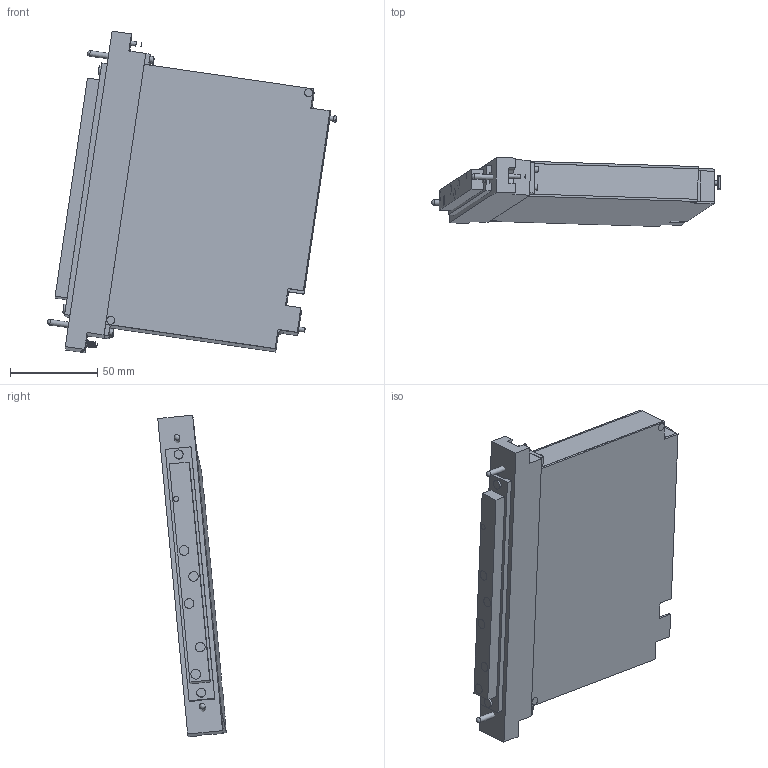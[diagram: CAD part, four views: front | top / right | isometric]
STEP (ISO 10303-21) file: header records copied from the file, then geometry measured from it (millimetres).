
FILE_DESCRIPTION((''),'2;1');
FILE_NAME('C:\old_Drawings\shrinkwrapped website .stp files\561039-STP.stp','2011-06-14T13:30:18',('GaryRobinson'),(''),'Autodesk Inventor 2011','Autodesk Inventor 2011','');
FILE_SCHEMA(('CONFIG_CONTROL_DESIGN'));
Length unit declared in the file: inch
Products named in the file (1): 561039-STP
Bounding box: 165.47 x 39.2 x 184.04 mm (x, y, z)
Surface area: 97933.1 mm2 (no closed solid volume)
Topology: 0 solids, 37 shells, 131 faces, 393 edges, 278 vertices
Faces by surface type: plane 93, cylinder 26, cone 9, sphere 2, bspline 1
Full cylindrical faces by diameter (mm): 2.184 x1, 2.5 x1, 2.54 x2, 2.731 x1, 2.946 x4, 3.175 x2, 3.556 x4, 4.763 x1, 5.08 x2
Entity records: 4911 total; most frequent: CARTESIAN_POINT 1189, DIRECTION 694, ORIENTED_EDGE 593, EDGE_CURVE 354, VERTEX_POINT 270, VECTOR 252, LINE 252, AXIS2_PLACEMENT_3D 221
